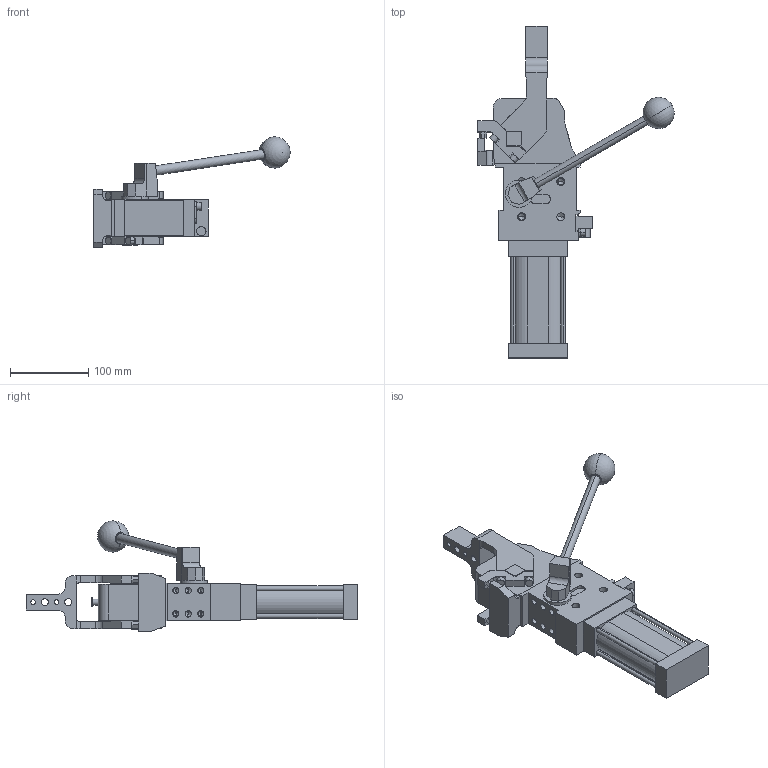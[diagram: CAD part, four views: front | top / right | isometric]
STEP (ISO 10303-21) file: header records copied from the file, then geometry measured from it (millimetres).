
FILE_DESCRIPTION (( 'STEP AP214' ), '1' );
FILE_NAME ('cplm50lath1csi1g_75.STEP', '2023-01-26T13:29:28', ( '' ), ( '' ), 'SwSTEP 2.0', 'SolidWorks 2022', '' );
FILE_SCHEMA (( 'AUTOMOTIVE_DESIGN' ));
Length unit declared in the file: millimetre
Products named in the file (5): blocchetto_VEP_0; cplm50lath1csi1g_75; meccanica_cplm_50_tassello_esterno; comando_manuale_cplm_50; leva_h1cs_cpl50t
Assembly tree (4 placements, depth 2):
  cplm50lath1csi1g_75
    meccanica_cplm_50_tassello_esterno
    blocchetto_VEP_0
    leva_h1cs_cpl50t
    comando_manuale_cplm_50
Bounding box: 251.06 x 424.5 x 141 mm (x, y, z)
Volume: 1500103.9 mm3; surface area: 189553.4 mm2
Topology: 4 solids, 4 shells, 468 faces, 1213 edges, 761 vertices
Faces by surface type: plane 243, cylinder 173, cone 50, sphere 2
Entity records: 15560 total; most frequent: DIRECTION 2478, CARTESIAN_POINT 2465, ORIENTED_EDGE 2324, EDGE_CURVE 1162, AXIS2_PLACEMENT_3D 845, VECTOR 788, LINE 788, VERTEX_POINT 758
